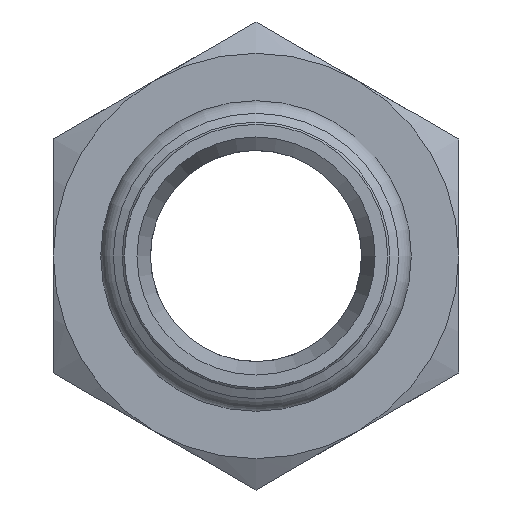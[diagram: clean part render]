
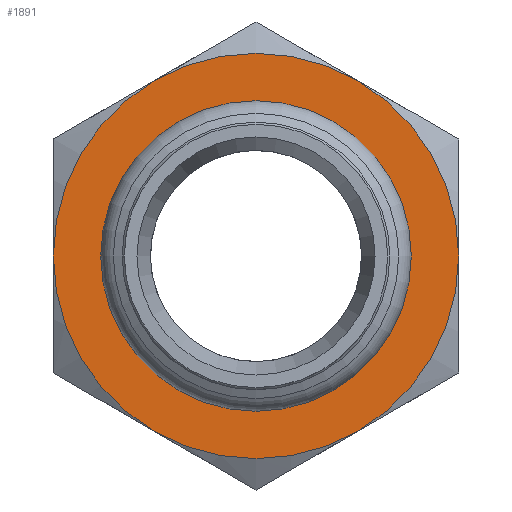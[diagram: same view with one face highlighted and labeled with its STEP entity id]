
A CAD part, left-side view. The second image highlights one B-rep face of the part: STEP entity #1891.
In plain terms, the highlighted planar face has unit normal (-1, 0, 0) as drawn and (0, 0, 1) by its records, which use the part's own axes.
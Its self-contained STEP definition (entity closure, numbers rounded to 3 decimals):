
#1257=CARTESIAN_POINT('',(16.0,0.,0.0));
#1258=VERTEX_POINT('',#1257);
#1259=CARTESIAN_POINT('',(0.0,0.0,0.0));
#1260=DIRECTION('',(0.0,0.0,-1.0));
#1261=DIRECTION('',(-1.0,0.0,0.0));
#1262=AXIS2_PLACEMENT_3D('',#1259,#1260,#1261);
#1263=CIRCLE('',#1262,16.0);
#1264=EDGE_CURVE('',#1258,#1258,#1263,.T.);
#1276=CARTESIAN_POINT('',(0.0,-24.,0.0));
#1277=VERTEX_POINT('',#1276);
#1291=CARTESIAN_POINT('',(20.785,-12.,0.0));
#1292=VERTEX_POINT('',#1291);
#1306=CARTESIAN_POINT('',(0.0,0.0,0.0));
#1307=DIRECTION('',(0.0,0.0,1.0));
#1308=DIRECTION('',(1.0,0.0,0.0));
#1309=AXIS2_PLACEMENT_3D('',#1306,#1307,#1308);
#1310=CIRCLE('',#1309,24.);
#1311=EDGE_CURVE('',#1277,#1292,#1310,.T.);
#1323=CARTESIAN_POINT('',(-20.785,-12.,0.0));
#1324=VERTEX_POINT('',#1323);
#1351=CARTESIAN_POINT('',(0.0,0.0,0.0));
#1352=DIRECTION('',(0.0,0.0,1.0));
#1353=DIRECTION('',(1.0,0.0,0.0));
#1354=AXIS2_PLACEMENT_3D('',#1351,#1352,#1353);
#1355=CIRCLE('',#1354,24.);
#1356=EDGE_CURVE('',#1324,#1277,#1355,.T.);
#1368=CARTESIAN_POINT('',(-20.785,12.,0.0));
#1369=VERTEX_POINT('',#1368);
#1396=CARTESIAN_POINT('',(0.0,0.0,0.0));
#1397=DIRECTION('',(0.0,0.0,1.0));
#1398=DIRECTION('',(1.0,0.0,0.0));
#1399=AXIS2_PLACEMENT_3D('',#1396,#1397,#1398);
#1400=CIRCLE('',#1399,24.);
#1401=EDGE_CURVE('',#1369,#1324,#1400,.T.);
#1426=CARTESIAN_POINT('',(0.,24.,0.0));
#1427=VERTEX_POINT('',#1426);
#1428=CARTESIAN_POINT('',(0.0,0.0,0.0));
#1429=DIRECTION('',(0.0,0.0,1.0));
#1430=DIRECTION('',(1.0,0.0,0.0));
#1431=AXIS2_PLACEMENT_3D('',#1428,#1429,#1430);
#1432=CIRCLE('',#1431,24.);
#1433=EDGE_CURVE('',#1427,#1369,#1432,.T.);
#1471=CARTESIAN_POINT('',(20.785,12.,0.0));
#1472=VERTEX_POINT('',#1471);
#1473=CARTESIAN_POINT('',(0.0,0.0,0.0));
#1474=DIRECTION('',(0.0,0.0,1.0));
#1475=DIRECTION('',(1.0,0.0,0.0));
#1476=AXIS2_PLACEMENT_3D('',#1473,#1474,#1475);
#1477=CIRCLE('',#1476,24.);
#1478=EDGE_CURVE('',#1472,#1427,#1477,.T.);
#1516=CARTESIAN_POINT('',(0.0,0.0,0.0));
#1517=DIRECTION('',(0.0,0.0,1.0));
#1518=DIRECTION('',(1.0,0.0,0.0));
#1519=AXIS2_PLACEMENT_3D('',#1516,#1517,#1518);
#1520=CIRCLE('',#1519,24.);
#1521=EDGE_CURVE('',#1292,#1472,#1520,.T.);
#1875=CARTESIAN_POINT('',(0.0,0.,0.0));
#1876=DIRECTION('',(0.0,0.0,1.0));
#1877=DIRECTION('',(1.0,0.0,0.0));
#1878=AXIS2_PLACEMENT_3D('',#1875,#1876,#1877);
#1879=PLANE('',#1878);
#1880=ORIENTED_EDGE('',*,*,#1521,.T.);
#1881=ORIENTED_EDGE('',*,*,#1478,.T.);
#1882=ORIENTED_EDGE('',*,*,#1433,.T.);
#1883=ORIENTED_EDGE('',*,*,#1401,.T.);
#1884=ORIENTED_EDGE('',*,*,#1356,.T.);
#1885=ORIENTED_EDGE('',*,*,#1311,.T.);
#1886=EDGE_LOOP('',(#1880,#1881,#1882,#1883,#1884,#1885));
#1887=FACE_OUTER_BOUND('',#1886,.T.);
#1888=ORIENTED_EDGE('',*,*,#1264,.T.);
#1889=EDGE_LOOP('',(#1888));
#1890=FACE_BOUND('',#1889,.T.);
#1891=ADVANCED_FACE('',(#1887,#1890),#1879,.T.);
